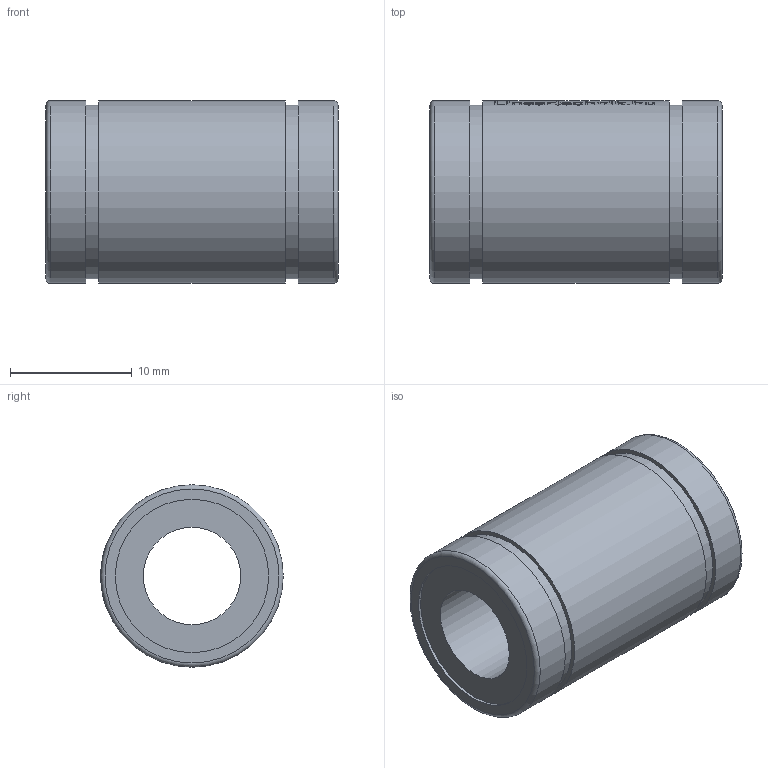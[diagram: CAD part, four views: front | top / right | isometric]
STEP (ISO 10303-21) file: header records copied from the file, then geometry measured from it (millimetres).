
FILE_DESCRIPTION(/* description */ ('Huosing for flange nuts'),/* implementation_level */ '2;1');
FILE_NAME(/* name */ 'LM8UU',/* time_stamp */ '2019-05-07T14:09:19+02:00',/* author */ ('VĂ©gh MĂˇtĂ©'),/* organization */ ('Bearing Kft'),/* preprocessor_version */ 'ST-DEVELOPER v16.7',/* originating_system */ 'DEX',/* authorisation */ $);
FILE_SCHEMA (('AUTOMOTIVE_DESIGN {1 0 10303 214 3 1 1}'));
Length unit declared in the file: millimetre
Products named in the file (1): LM8UU
Bounding box: 24 x 15 x 15 mm (x, y, z)
Volume: 2959.6 mm3; surface area: 2053.9 mm2
Topology: 1 solids, 1 shells, 300 faces, 742 edges, 494 vertices
Faces by surface type: plane 153, bspline 92, cylinder 53, torus 2
Full cylindrical faces by diameter (mm): 8 x1, 12.6 x2, 14.3 x2, 15 x3
Entity records: 14004 total; most frequent: CARTESIAN_POINT 7400, ORIENTED_EDGE 1452, DIRECTION 1098, EDGE_CURVE 726, VERTEX_POINT 491, LINE 396, VECTOR 396, EDGE_LOOP 365
